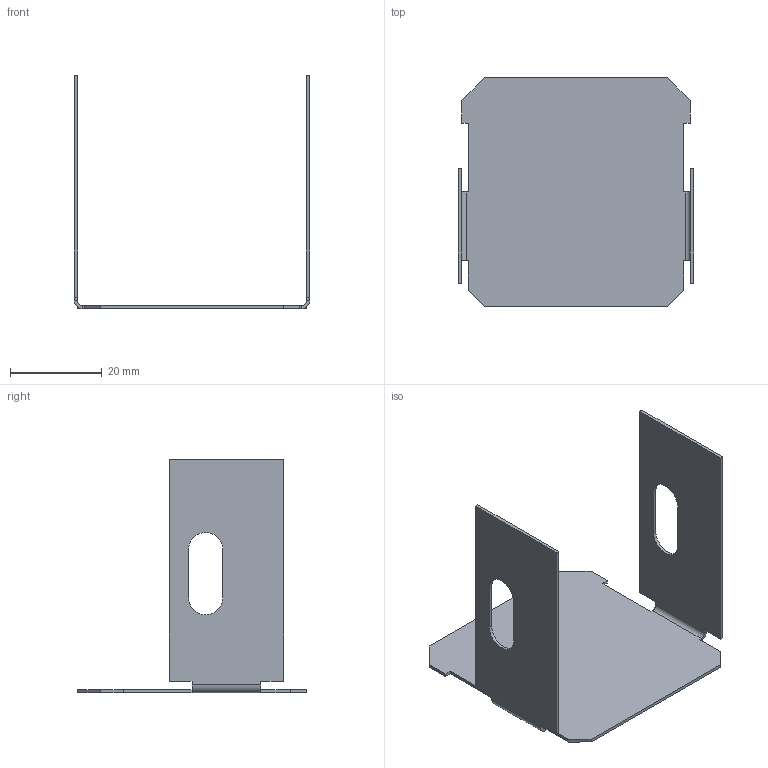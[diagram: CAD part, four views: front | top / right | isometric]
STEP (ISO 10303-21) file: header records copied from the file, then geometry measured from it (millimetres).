
FILE_DESCRIPTION (( 'STEP AP203' ), '1' );
FILE_NAME ('ERE_REER_50X50 50x50.step', '2023-07-28T14:37:50', ( '' ), ( '' ), 'SwSTEP 2.0', 'SolidWorks 2022', '' );
FILE_SCHEMA (( 'CONFIG_CONTROL_DESIGN' ));
Length unit declared in the file: millimetre
Products named in the file (1): ERE_REER_50X50 50x50
Bounding box: 51.4 x 50 x 51.02 mm (x, y, z)
Volume: 3237.6 mm3; surface area: 9619 mm2
Topology: 1 solids, 1 shells, 56 faces, 146 edges, 92 vertices
Faces by surface type: plane 46, cylinder 10
Entity records: 1767 total; most frequent: CARTESIAN_POINT 295, ORIENTED_EDGE 292, DIRECTION 280, EDGE_CURVE 146, VECTOR 126, LINE 126, VERTEX_POINT 92, AXIS2_PLACEMENT_3D 77
